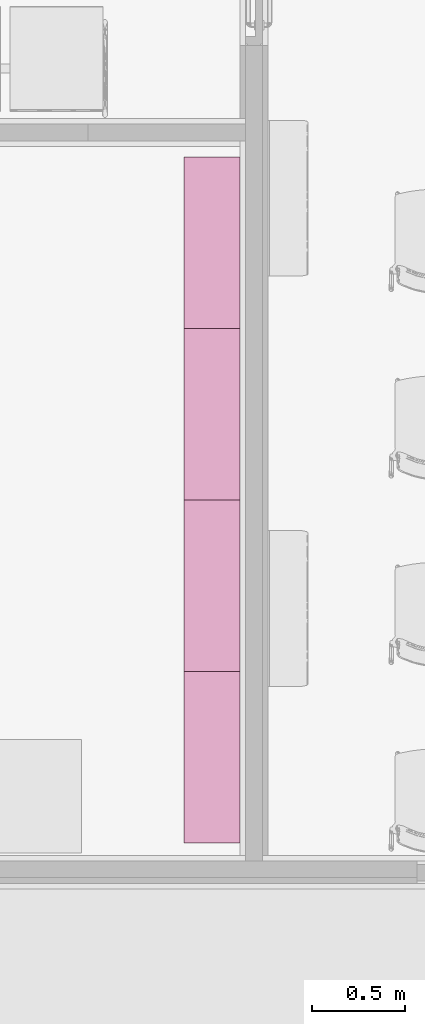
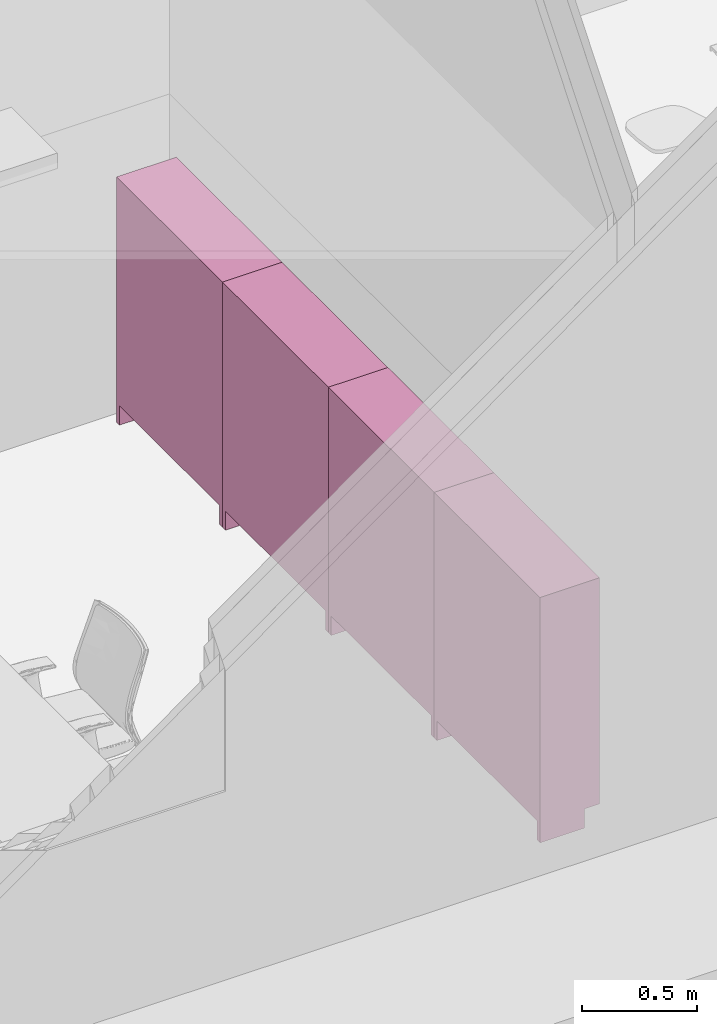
# One storey, part 78 of 155: 4 furnishings.
"""IFC2X3 building model written with IfcOpenShell, lengths in metres."""

from ifc_helpers import new_model, entity, si_unit, converted_unit, derived_unit, direction, frame, frame_2d, origin, origin_2d_with_axis, place, context, subcontext, project, spatial, polyline, rectangle, outline, extrude, source, transform, mapped, type_object, type_shapes, element, save


model = new_model("IFC2X3")

# Units and contexts
model_context = context("Model", 3, precision=1e-05, world=origin(), true_north=direction((6.12303176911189e-17, 1.0)))
body_context = subcontext(model_context, "Body", "Model", "MODEL_VIEW")
ifc_project = project(units=[si_unit("LENGTHUNIT", "METRE"), si_unit("AREAUNIT", "SQUARE_METRE"), si_unit("VOLUMEUNIT", "CUBIC_METRE"), converted_unit("PLANEANGLEUNIT", "DEGREE", entity("IfcRatioMeasure", 0.0174532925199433), si_unit("PLANEANGLEUNIT", "RADIAN"), dimensions=[0, 0, 0, 0, 0, 0, 0]), si_unit("MASSUNIT", "GRAM", prefix="KILO"), derived_unit("MASSDENSITYUNIT", [(si_unit("MASSUNIT", "GRAM", prefix="KILO"), 1), (si_unit("LENGTHUNIT", "METRE"), -3)]), si_unit("TIMEUNIT", "SECOND"), si_unit("FREQUENCYUNIT", "HERTZ"), si_unit("THERMODYNAMICTEMPERATUREUNIT", "DEGREE_CELSIUS"), derived_unit("THERMALTRANSMITTANCEUNIT", [(si_unit("MASSUNIT", "GRAM", prefix="KILO"), 1), (si_unit("THERMODYNAMICTEMPERATUREUNIT", "KELVIN"), -1), (si_unit("TIMEUNIT", "SECOND"), -3)]), derived_unit("VOLUMETRICFLOWRATEUNIT", [(si_unit("LENGTHUNIT", "METRE"), 3), (si_unit("TIMEUNIT", "SECOND"), -1)]), si_unit("ELECTRICCURRENTUNIT", "AMPERE"), si_unit("ELECTRICVOLTAGEUNIT", "VOLT"), si_unit("POWERUNIT", "WATT"), si_unit("FORCEUNIT", "NEWTON", prefix="KILO"), si_unit("ILLUMINANCEUNIT", "LUX"), si_unit("LUMINOUSFLUXUNIT", "LUMEN"), si_unit("LUMINOUSINTENSITYUNIT", "CANDELA"), derived_unit("USERDEFINED", [(si_unit("MASSUNIT", "GRAM", prefix="KILO"), -1), (si_unit("LENGTHUNIT", "METRE"), -2), (si_unit("TIMEUNIT", "SECOND"), 3), (si_unit("LUMINOUSFLUXUNIT", "LUMEN"), 1)]), derived_unit("LINEARVELOCITYUNIT", [(si_unit("LENGTHUNIT", "METRE"), 1), (si_unit("TIMEUNIT", "SECOND"), -1)]), si_unit("PRESSUREUNIT", "PASCAL"), derived_unit("USERDEFINED", [(si_unit("LENGTHUNIT", "METRE"), -2), (si_unit("MASSUNIT", "GRAM", prefix="KILO"), 1), (si_unit("TIMEUNIT", "SECOND"), -2)])], contexts=[model_context])

# Site, building, storey, space
site_placement = place(None, frame((26.9889013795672, -17.5624287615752, 0.0)))
site = spatial("IfcSite", under=ifc_project, at=site_placement, Name="Default", CompositionType="ELEMENT")
building_placement = place(site_placement, origin())
building = spatial("IfcBuilding", under=site, at=building_placement, Name="C. C. L. Monsenhor Antônio Sampaio", CompositionType="ELEMENT")
storey_placement = place(building_placement, frame((0.0, 0.0, 1.19999999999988)))
storey = spatial("IfcBuildingStorey", under=building, at=storey_placement, Name="Nível 1.2", CompositionType="ELEMENT", Elevation=1.19999999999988)
space_placement = place(storey_placement, origin())
space = spatial("IfcSpace", under=storey, at=space_placement, Name="78", CompositionType="ELEMENT", InteriorOrExteriorSpace="INTERNAL")

# Furnishings
furniture_type = type_object("IfcFurnitureType", Name="Shelving_Unit_-_Fully_Parametric_12010")
shared_shape = source(origin(), body_context, "Body", "SweptSolid", [
    extrude(rectangle(XDim=0.868105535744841, YDim=0.298954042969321, at=frame_2d((-2.77555756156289e-17, 0.0), x_axis=(1.0, 0.0))), frame((0.0, -0.149477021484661, 0.883599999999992)), (0.0, 0.0, 1.0), 0.0254),
    extrude(rectangle(XDim=0.868105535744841, YDim=0.298954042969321, at=frame_2d((-2.77555756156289e-17, 0.0), x_axis=(1.0, 0.0))), frame((0.0, -0.149477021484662, 0.492599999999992)), (0.0, 0.0, 1.0), 0.0254),
    extrude(rectangle(XDim=0.868105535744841, YDim=0.298954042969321, at=frame_2d((-2.77555756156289e-17, 0.0), x_axis=(1.0, 0.0))), frame((0.0, -0.149477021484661, 1.27459999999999)), (0.0, 0.0, 1.0), 0.0253999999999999),
    extrude(rectangle(XDim=0.868105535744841, YDim=0.298954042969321, at=frame_2d((-2.77555756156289e-17, 0.0), x_axis=(1.0, 0.0))), frame((0.0, -0.149477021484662, 0.101599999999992)), (0.0, 0.0, 1.0), 0.0254),
    extrude(rectangle(XDim=0.86810553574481, YDim=0.00635000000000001, at=frame_2d((0.0, 1.69135538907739e-17), x_axis=(1.0, 0.0))), frame((0.0, -0.295779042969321, 0.126999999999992)), (0.0, 0.0, 1.0), 1.1476),
    extrude(rectangle(XDim=0.868105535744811, YDim=0.015875, at=origin_2d_with_axis()), frame((0.0, -0.0841374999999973, 0.0)), (0.0, 0.0, 1.0), 0.101599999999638),
    extrude(outline(polyline([(-0.365599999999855, -0.125051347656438), (0.832799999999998, -0.125051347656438), (0.832799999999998, 0.17390269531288), (-0.467200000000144, 0.17390269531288), (-0.467200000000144, -0.0488513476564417), (-0.365599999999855, -0.0488513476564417), (-0.365599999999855, -0.125051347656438)])), frame((-0.459452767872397, -0.125051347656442, 0.467199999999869), z_axis=(1.0, 0.0, 0.0), x_axis=(0.0, 0.0, 1.0)), (0.0, 0.0, 1.0), 0.0254),
    extrude(outline(polyline([(-0.365599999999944, -0.125051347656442), (0.832799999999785, -0.125051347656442), (0.832799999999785, 0.173902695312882), (-0.467199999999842, 0.173902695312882), (-0.467199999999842, -0.0488513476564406), (-0.365599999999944, -0.0488513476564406), (-0.365599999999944, -0.125051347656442)])), frame((0.434052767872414, -0.12505134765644, 0.467200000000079), z_axis=(1.0, 0.0, 0.0), x_axis=(0.0, 0.0, 1.0)), (0.0, 0.0, 1.0), 0.0254),
])
type_shapes(furniture_type, [shared_shape])
for number, where, z_axis, x_axis in (
    (1, (3.72944770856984, -36.0201350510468, 0.0), (0.0, 0.0, 1.0), (0.0, -1.0, 0.0)),
    (2, (3.72944770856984, -36.9390405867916, 0.0), (0.0, 0.0, 1.0), (0.0, -1.0, 0.0)),
    (3, (3.72944770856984, -37.8579461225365, 0.0), (0.0, 0.0, 1.0), (0.0, -1.0, 0.0)),
    (4, (3.72944770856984, -38.7768516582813, 0.0), (0.0, 0.0, 1.0), (0.0, -1.0, 0.0)),
):
    element("IfcFurnishingElement", number, at=place(space_placement, frame(where, z_axis=z_axis, x_axis=x_axis)), inside=space, type_object=furniture_type, Name="Shelving_Unit_-_Fully_Parametric_12010:Shelving_Unit_-_Fully_Parametric_12010", ObjectType="Shelving_Unit_-_Fully_Parametric_12010", context=body_context, shape_type="MappedRepresentation", body=[
        mapped(shared_shape, transform((0.0, 0.0, 0.0), scale=1.0)),
    ])

save(model, "model.ifc")
